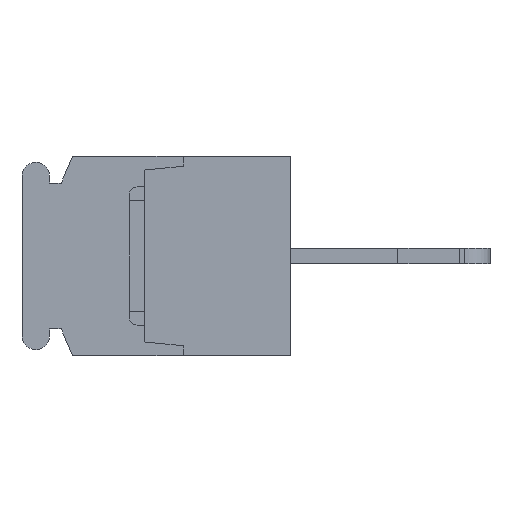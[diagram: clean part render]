
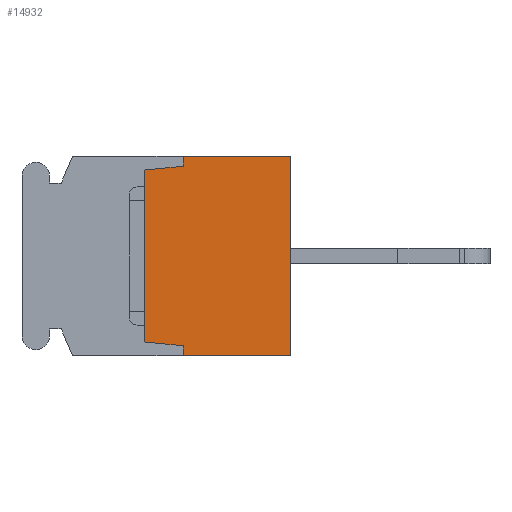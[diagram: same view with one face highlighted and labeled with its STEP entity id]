
A CAD part, left-side view. The second image highlights one B-rep face of the part: STEP entity #14932.
In plain terms, the highlighted planar face has unit normal (-1, 0, 0).
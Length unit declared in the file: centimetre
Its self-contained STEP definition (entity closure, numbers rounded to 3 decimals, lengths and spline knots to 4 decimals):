
#1170=VECTOR('',#16726,1.);
#1191=VECTOR('',#16748,1.);
#1241=VECTOR('',#16814,1.);
#1858=VECTOR('',#18324,1.);
#1859=VECTOR('',#18325,1.);
#1860=VECTOR('',#18326,1.);
#1861=VECTOR('',#18327,1.);
#1862=VECTOR('',#18328,1.);
#2852=LINE('',#20930,#1170);
#2873=LINE('',#20971,#1191);
#2923=LINE('',#21074,#1241);
#3540=LINE('',#23052,#1858);
#3541=LINE('',#23054,#1859);
#3542=LINE('',#23056,#1860);
#3543=LINE('',#23058,#1861);
#3544=LINE('',#23060,#1862);
#4522=VERTEX_POINT('',#20927);
#4523=VERTEX_POINT('',#20929);
#4543=VERTEX_POINT('',#20972);
#4583=VERTEX_POINT('',#21073);
#5158=VERTEX_POINT('',#23053);
#5159=VERTEX_POINT('',#23055);
#5160=VERTEX_POINT('',#23057);
#5161=VERTEX_POINT('',#23059);
#6490=EDGE_CURVE('',#4523,#4522,#2852,.T.);
#6511=EDGE_CURVE('',#4522,#4543,#2873,.T.);
#6563=EDGE_CURVE('',#4583,#4523,#2923,.T.);
#7454=EDGE_CURVE('',#5158,#4583,#3540,.T.);
#7455=EDGE_CURVE('',#5159,#5158,#3541,.T.);
#7456=EDGE_CURVE('',#5160,#5159,#3542,.T.);
#7457=EDGE_CURVE('',#5161,#5160,#3543,.T.);
#7458=EDGE_CURVE('',#4543,#5161,#3544,.T.);
#11400=ORIENTED_EDGE('',*,*,#6490,.F.);
#11401=ORIENTED_EDGE('',*,*,#6563,.F.);
#11402=ORIENTED_EDGE('',*,*,#7454,.F.);
#11403=ORIENTED_EDGE('',*,*,#7455,.F.);
#11404=ORIENTED_EDGE('',*,*,#7456,.F.);
#11405=ORIENTED_EDGE('',*,*,#7457,.F.);
#11406=ORIENTED_EDGE('',*,*,#7458,.F.);
#11407=ORIENTED_EDGE('',*,*,#6511,.F.);
#13144=EDGE_LOOP('',(#11400,#11401,#11402,#11403,#11404,#11405,#11406,#11407));
#14080=FACE_BOUND('',#13144,.T.);
#14932=ADVANCED_FACE('',(#14080),#15613,.F.);
#15613=PLANE('',#25414);
#16726=DIRECTION('',(0.,0.,-1.));
#16748=DIRECTION('',(0.,1.,0.));
#16814=DIRECTION('',(0.,-1.,0.));
#18323=DIRECTION('',(1.,0.,0.));
#18324=DIRECTION('',(0.,0.,1.));
#18325=DIRECTION('',(0.,-0.995,0.1));
#18326=DIRECTION('',(0.,0.,1.));
#18327=DIRECTION('',(0.,0.995,0.1));
#18328=DIRECTION('',(0.,0.,1.));
#20927=CARTESIAN_POINT('',(-1.84,0.,-0.65));
#20929=CARTESIAN_POINT('',(-1.84,0.,0.65));
#20930=CARTESIAN_POINT('',(-1.84,0.,0.65));
#20971=CARTESIAN_POINT('',(-1.84,0.,-0.65));
#20972=CARTESIAN_POINT('',(-1.84,0.7,-0.65));
#21073=CARTESIAN_POINT('',(-1.84,0.7,0.65));
#21074=CARTESIAN_POINT('',(-1.84,0.7,0.65));
#23051=CARTESIAN_POINT('',(-1.84,0.4626,0.));
#23052=CARTESIAN_POINT('',(-1.84,0.7,0.585));
#23053=CARTESIAN_POINT('',(-1.84,0.7,0.585));
#23054=CARTESIAN_POINT('',(-1.84,0.95,0.56));
#23055=CARTESIAN_POINT('',(-1.84,0.95,0.56));
#23056=CARTESIAN_POINT('',(-1.84,0.95,-0.56));
#23057=CARTESIAN_POINT('',(-1.84,0.95,-0.56));
#23058=CARTESIAN_POINT('',(-1.84,0.7,-0.585));
#23059=CARTESIAN_POINT('',(-1.84,0.7,-0.585));
#23060=CARTESIAN_POINT('',(-1.84,0.7,-0.65));
#25414=AXIS2_PLACEMENT_3D('',#23051,#18323,$);
